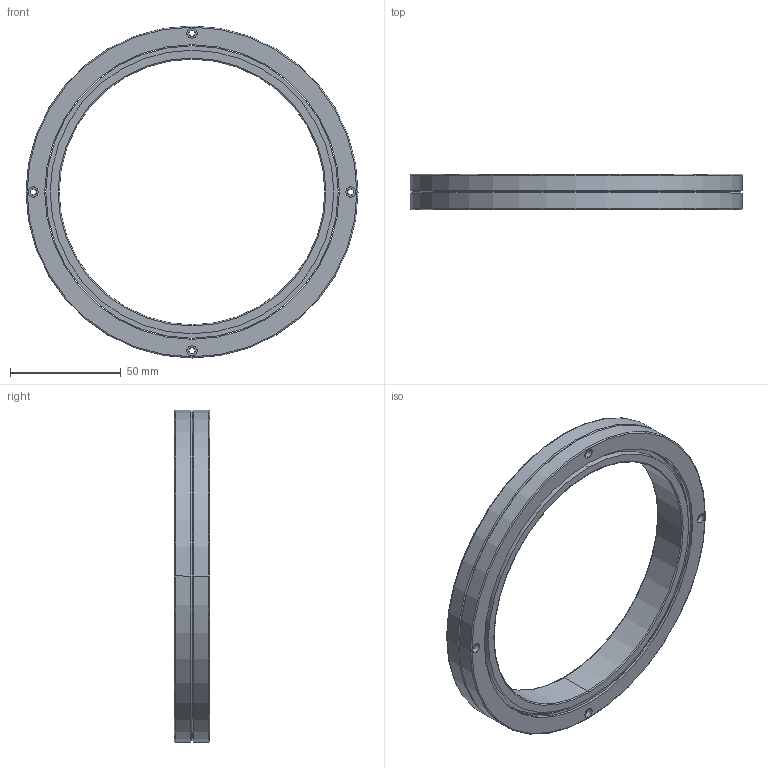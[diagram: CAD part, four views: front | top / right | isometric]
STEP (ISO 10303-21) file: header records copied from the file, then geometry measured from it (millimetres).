
FILE_DESCRIPTION((''),'2;1');
FILE_NAME('RB12016','2015-01-09T',('Administrator'),(''),'PRO/ENGINEER BY PARAMETRIC TECHNOLOGY CORPORATION, 2010180','PRO/ENGINEER BY PARAMETRIC TECHNOLOGY CORPORATION, 2010180','');
FILE_SCHEMA(('AUTOMOTIVE_DESIGN_CC2 { 1 2 10303 214 -1 1 5 2 }'));
Length unit declared in the file: millimetre
Products named in the file (1): RB12016
Bounding box: 150 x 16 x 150 mm (x, y, z)
Volume: 80879.6 mm3; surface area: 45446.7 mm2
Topology: 2 solids, 2 shells, 88 faces, 184 edges, 114 vertices
Faces by surface type: cylinder 50, plane 18, cone 12, torus 8
Entity records: 2497 total; most frequent: DIRECTION 482, CARTESIAN_POINT 386, ORIENTED_EDGE 368, AXIS2_PLACEMENT_3D 210, EDGE_CURVE 184, CIRCLE 122, VERTEX_POINT 114, EDGE_LOOP 114
